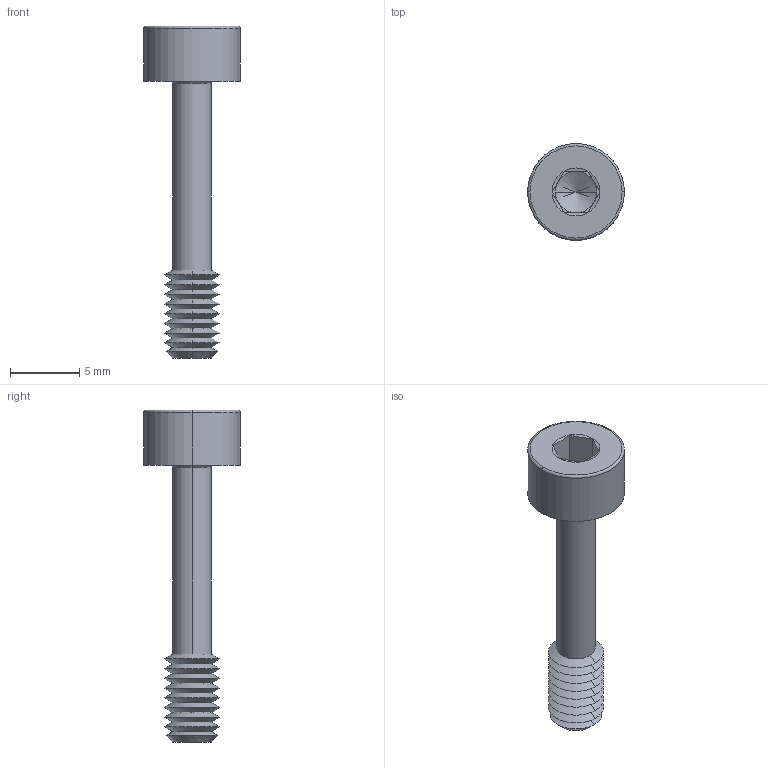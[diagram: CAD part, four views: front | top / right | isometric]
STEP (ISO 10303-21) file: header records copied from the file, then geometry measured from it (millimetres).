
FILE_DESCRIPTION (( 'STEP AP203' ), '1' );
FILE_NAME ('P0154.040-020-BL.step', '2024-06-17T11:24:39', ( '' ), ( '' ), 'SwSTEP 2.0', 'SolidWorks 2019', '' );
FILE_SCHEMA (( 'CONFIG_CONTROL_DESIGN' ));
Length unit declared in the file: millimetre
Products named in the file (1): P0154.040-020-BL
Bounding box: 7 x 7 x 24 mm (x, y, z)
Volume: 270 mm3; surface area: 446.6 mm2
Topology: 1 solids, 1 shells, 67 faces, 136 edges, 71 vertices
Faces by surface type: cone 44, plane 15, torus 4, cylinder 4
Entity records: 1787 total; most frequent: DIRECTION 332, CARTESIAN_POINT 299, ORIENTED_EDGE 268, AXIS2_PLACEMENT_3D 136, EDGE_CURVE 134, VERTEX_POINT 71, EDGE_LOOP 69, CIRCLE 68
